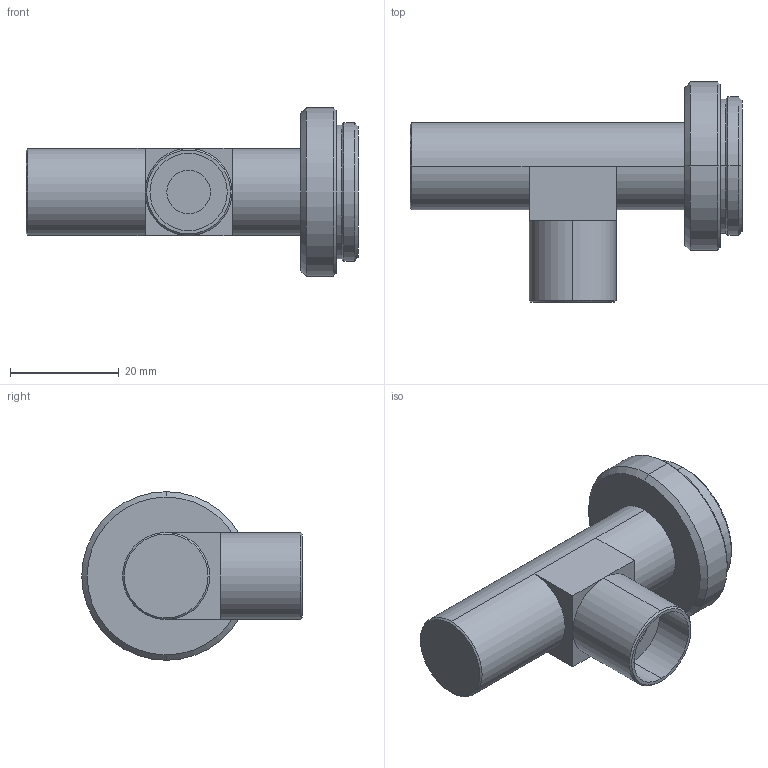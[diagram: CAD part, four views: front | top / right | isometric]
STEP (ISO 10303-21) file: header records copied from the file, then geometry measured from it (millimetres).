
FILE_DESCRIPTION (( 'STEP AP203' ), '1' );
FILE_NAME ('VS-TC1.5-40CO.STEP', '2017-01-13T05:30:56', ( '' ), ( '' ), 'SwSTEP 2.0', 'SolidWorks 2017', '' );
FILE_SCHEMA (( 'CONFIG_CONTROL_DESIGN' ));
Length unit declared in the file: millimetre
Products named in the file (1): VS-TC1.5-40CO
Bounding box: 61 x 40.5 x 31 mm (x, y, z)
Volume: 19373.1 mm3; surface area: 6477.8 mm2
Topology: 1 solids, 1 shells, 42 faces, 84 edges, 48 vertices
Faces by surface type: cylinder 15, plane 15, cone 12
Entity records: 1155 total; most frequent: DIRECTION 212, CARTESIAN_POINT 175, ORIENTED_EDGE 168, AXIS2_PLACEMENT_3D 85, EDGE_CURVE 84, VERTEX_POINT 48, EDGE_LOOP 46, VECTOR 42
